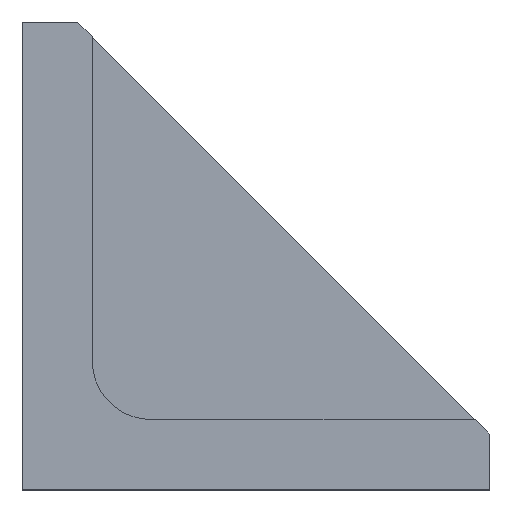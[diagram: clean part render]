
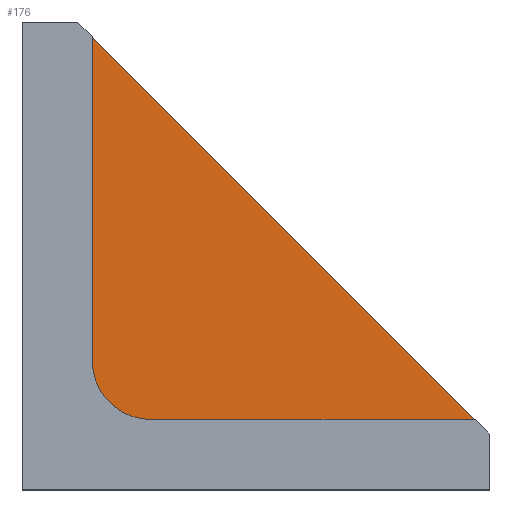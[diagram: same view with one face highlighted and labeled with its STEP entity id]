
A CAD part, top view. The second image highlights one B-rep face of the part: STEP entity #176.
In plain terms, the highlighted planar face has unit normal (0, 0, 1).
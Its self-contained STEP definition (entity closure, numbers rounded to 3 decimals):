
#23 = VECTOR ( 'NONE', #1244, 1000. ) ;
#159 = ORIENTED_EDGE ( 'NONE', *, *, #1899, .F. ) ;
#166 = CARTESIAN_POINT ( 'NONE',  ( -152.5, 160., -35. ) ) ;
#175 = LINE ( 'NONE', #166, #1466 ) ;
#176 = ADVANCED_FACE ( 'NONE', ( #1828 ), #427, .F. ) ;
#255 = CARTESIAN_POINT ( 'NONE',  ( -152.5, 160., -35. ) ) ;
#427 = PLANE ( 'NONE',  #1546 ) ;
#432 = CARTESIAN_POINT ( 'NONE',  ( -152.5, 7.5, -35. ) ) ;
#489 = CARTESIAN_POINT ( 'NONE',  ( -152.5, 160., -35. ) ) ;
#495 = CARTESIAN_POINT ( 'NONE',  ( 0., 7.5, -35. ) ) ;
#515 = CARTESIAN_POINT ( 'NONE',  ( 0., 19., -35. ) ) ;
#542 = VERTEX_POINT ( 'NONE', #515 ) ;
#628 = CARTESIAN_POINT ( 'NONE',  ( -152.5, 7.5, -35. ) ) ;
#648 = CARTESIAN_POINT ( 'NONE',  ( 0., 19., -35. ) ) ;
#755 = LINE ( 'NONE', #432, #1906 ) ;
#791 = LINE ( 'NONE', #648, #1183 ) ;
#860 = DIRECTION ( 'NONE',  ( 0., 0., -1. ) ) ;
#972 = VERTEX_POINT ( 'NONE', #1944 ) ;
#1077 = DIRECTION ( 'NONE',  ( 1., 0., 0. ) ) ;
#1103 = CARTESIAN_POINT ( 'NONE',  ( 0., 160., -35. ) ) ;
#1183 = VECTOR ( 'NONE', #1773, 1000. ) ;
#1227 = VERTEX_POINT ( 'NONE', #495 ) ;
#1244 = DIRECTION ( 'NONE',  ( 0., 1., 0. ) ) ;
#1246 = VERTEX_POINT ( 'NONE', #1397 ) ;
#1253 = DIRECTION ( 'NONE',  ( 0., 1., 0. ) ) ;
#1281 = ORIENTED_EDGE ( 'NONE', *, *, #1377, .T. ) ;
#1331 = DIRECTION ( 'NONE',  ( -1., 0., 0. ) ) ;
#1343 = EDGE_CURVE ( 'NONE', #542, #972, #791, .T. ) ;
#1360 = EDGE_CURVE ( 'NONE', #1246, #972, #175, .T. ) ;
#1373 = EDGE_CURVE ( 'NONE', #1227, #542, #1427, .T. ) ;
#1377 = EDGE_CURVE ( 'NONE', #1916, #1227, #755, .T. ) ;
#1397 = CARTESIAN_POINT ( 'NONE',  ( -152.5, 160., -35. ) ) ;
#1427 = LINE ( 'NONE', #1103, #23 ) ;
#1433 = EDGE_LOOP ( 'NONE', ( #1949, #1978, #1524, #159, #1281 ) ) ;
#1466 = VECTOR ( 'NONE', #1077, 1000. ) ;
#1524 = ORIENTED_EDGE ( 'NONE', *, *, #1360, .F. ) ;
#1546 = AXIS2_PLACEMENT_3D ( 'NONE', #255, #860, #1331 ) ;
#1744 = DIRECTION ( 'NONE',  ( 1., 0., 0. ) ) ;
#1750 = LINE ( 'NONE', #489, #1904 ) ;
#1773 = DIRECTION ( 'NONE',  ( -0.707, 0.707, 0. ) ) ;
#1828 = FACE_OUTER_BOUND ( 'NONE', #1433, .T. ) ;
#1899 = EDGE_CURVE ( 'NONE', #1916, #1246, #1750, .T. ) ;
#1904 = VECTOR ( 'NONE', #1253, 1000. ) ;
#1906 = VECTOR ( 'NONE', #1744, 1000. ) ;
#1916 = VERTEX_POINT ( 'NONE', #628 ) ;
#1944 = CARTESIAN_POINT ( 'NONE',  ( -141., 160., -35. ) ) ;
#1949 = ORIENTED_EDGE ( 'NONE', *, *, #1373, .T. ) ;
#1978 = ORIENTED_EDGE ( 'NONE', *, *, #1343, .T. ) ;
